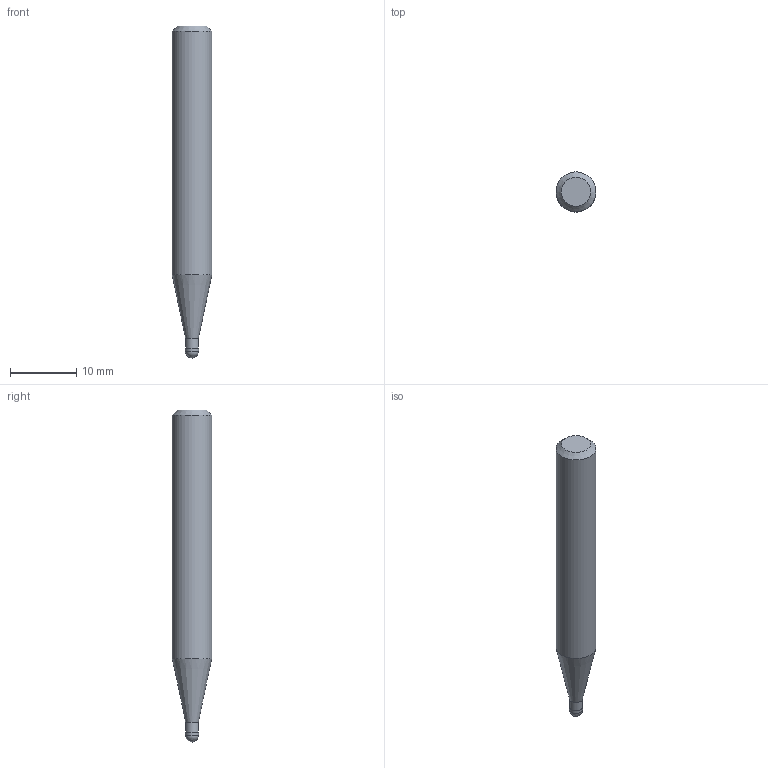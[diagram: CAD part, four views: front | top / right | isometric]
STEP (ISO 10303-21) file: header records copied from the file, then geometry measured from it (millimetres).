
FILE_DESCRIPTION((''),'2;1');
FILE_NAME('C:\Users\nsx150\AppData\Local\Temp\Mastercam 2021\ARV7HD45SN\TEMP.step','2023-06-13T16:37:16',(''),(''),'STEP Write','Mastercam 2021 ... CNC Software, Inc.','');
FILE_SCHEMA(('AUTOMOTIVE_DESIGN'));
Length unit declared in the file: millimetre
Products named in the file (1): None
Bounding box: 6 x 6 x 50 mm (x, y, z)
Volume: 1190 mm3; surface area: 871 mm2
Topology: 2 solids, 2 shells, 9 faces, 14 edges, 8 vertices
Faces by surface type: plane 3, cylinder 3, cone 2, sphere 1
Full cylindrical faces by diameter (mm): 1.94 x1, 2 x1, 6 x1
Entity records: 211 total; most frequent: DIRECTION 36, CARTESIAN_POINT 25, AXIS2_PLACEMENT_3D 18, ORIENTED_EDGE 14, EDGE_LOOP 14, STYLED_ITEM 12, ADVANCED_FACE 9, FACE_BOUND 8
